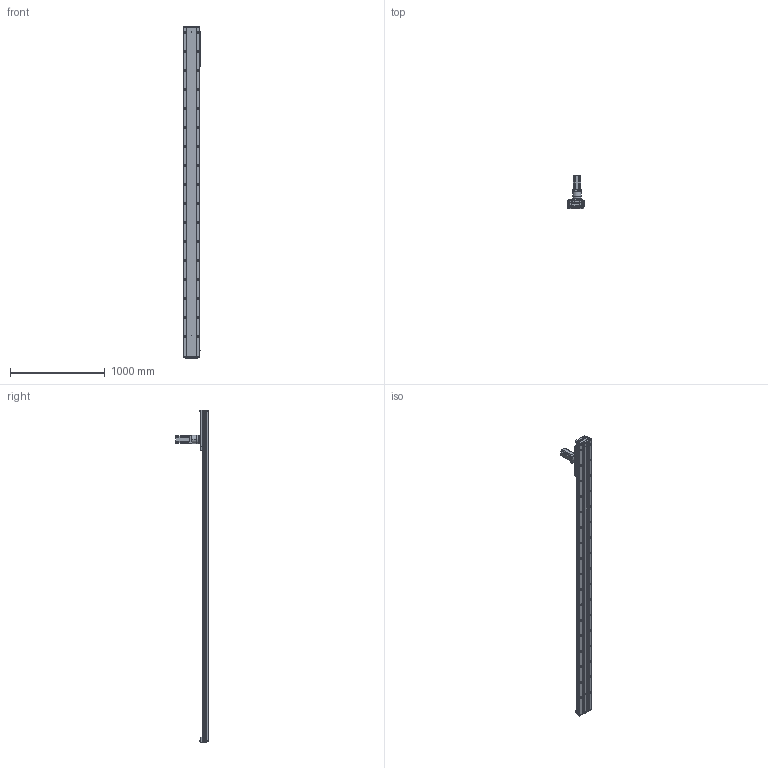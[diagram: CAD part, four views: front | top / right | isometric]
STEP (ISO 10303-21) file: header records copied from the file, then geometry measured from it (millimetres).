
FILE_DESCRIPTION (( 'STEP AP203' ), '1' );
FILE_NAME ('RY170-C-1000-UK.SLDASM_3000.step', '2021-03-03T00:48:17', ( '盈信电脑' ), ( '东莞市道滘镇水果街19号' ), 'SwSTEP 2.0', 'SolidWorks 2012', '' );
FILE_SCHEMA (( 'CONFIG_CONTROL_DESIGN' ));
Length unit declared in the file: millimetre
Products named in the file (13): 左旋斜齿齿轮_M2_22齿_内孔20; RY170-C-1000-UK.SLDASM_3000; RY170-喘沭賑輸; RY170-喘謫萇儂覃誹啣; 怢湛750W萇儂ㄗ80遺ㄘ; RY170-喘沭滅袉蝶輸; TF080等撰; RY170綴裔啣ㄗ蜊秶ㄘ; 覜茼ん672; RY170-1000-喘沭耀郪絳寢EGH20CA_3000; RY170外置感应片(200共用）; RY170-1000齿条模组型材底座_3000; 絳寢賑輸EGH20CA
Assembly tree (22 placements, depth 2):
  RY170-C-1000-UK.SLDASM_3000
    RY170-1000齿条模组型材底座_3000
    絳寢賑輸EGH20CA  x6
    RY170-1000-喘沭耀郪絳寢EGH20CA_3000  x2
    RY170綴裔啣ㄗ蜊秶ㄘ  x2
    覜茼ん672  x3
    RY170外置感应片(200共用）
    RY170-喘謫萇儂覃誹啣
    怢湛750W萇儂ㄗ80遺ㄘ
    RY170-喘沭滅袉蝶輸  x2
    TF080等撰
    左旋斜齿齿轮_M2_22齿_内孔20
    RY170-喘沭賑輸
Bounding box: 188.7 x 343.5 x 3500 mm (x, y, z)
Volume: 17515348.8 mm3; surface area: 4520354.6 mm2
Topology: 24 solids, 24 shells, 4891 faces, 13866 edges, 8834 vertices
Faces by surface type: plane 2281, cylinder 2144, cone 412, bspline 50, torus 4
Entity records: 113108 total; most frequent: CARTESIAN_POINT 27490, ORIENTED_EDGE 17990, DIRECTION 17324, EDGE_CURVE 8995, AXIS2_PLACEMENT_3D 6461, VERTEX_POINT 5846, LINE 4402, VECTOR 4402
